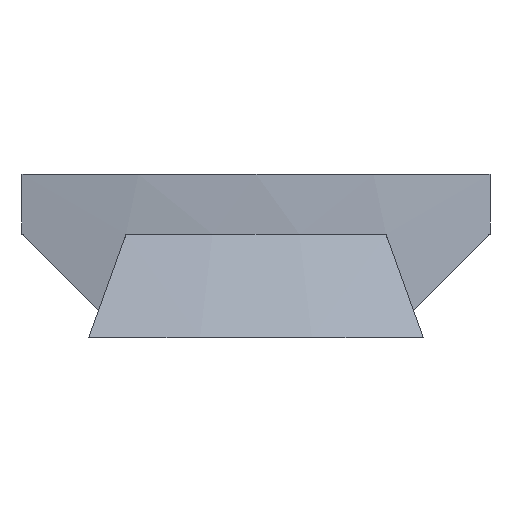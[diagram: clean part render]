
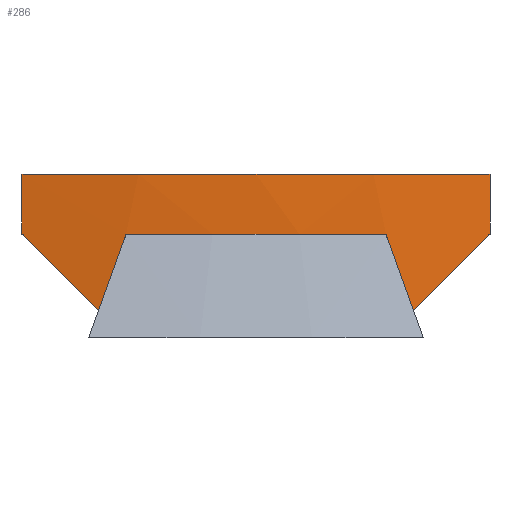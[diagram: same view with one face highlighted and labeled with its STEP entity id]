
A CAD part, front view. The second image highlights one B-rep face of the part: STEP entity #286.
In plain terms, the highlighted cylindrical face has radius 44.85 mm (diameter 89.7 mm), a partial arc.
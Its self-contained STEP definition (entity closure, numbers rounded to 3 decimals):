
#34 = VERTEX_POINT('',#35);
#35 = CARTESIAN_POINT('',(4.769,-15.151,0.01));
#42 = EDGE_CURVE('',#43,#34,#45,.T.);
#43 = VERTEX_POINT('',#44);
#44 = CARTESIAN_POINT('',(4.769,-15.151,3.8));
#45 = B_SPLINE_CURVE_WITH_KNOTS('',4,(#46,#47,#48,#49,#50),
  .UNSPECIFIED.,.F.,.F.,(5,5),(0.,1.),.PIECEWISE_BEZIER_KNOTS.);
#46 = CARTESIAN_POINT('',(4.769,-15.151,3.8));
#47 = CARTESIAN_POINT('',(4.769,-15.151,2.853));
#48 = CARTESIAN_POINT('',(4.769,-15.151,1.905));
#49 = CARTESIAN_POINT('',(4.769,-15.151,0.958));
#50 = CARTESIAN_POINT('',(4.769,-15.151,0.01));
#238 = EDGE_CURVE('',#34,#239,#241,.T.);
#239 = VERTEX_POINT('',#240);
#240 = CARTESIAN_POINT('',(8.575,-14.578,3.8));
#241 = B_SPLINE_CURVE_WITH_KNOTS('',4,(#242,#243,#244,#245,#246),
  .UNSPECIFIED.,.F.,.F.,(5,5),(0.,1.),.PIECEWISE_BEZIER_KNOTS.);
#242 = CARTESIAN_POINT('',(4.769,-15.151,
    0.01));
#243 = CARTESIAN_POINT('',(5.731,-15.048,0.956
    ));
#244 = CARTESIAN_POINT('',(6.687,-14.918,1.903
    ));
#245 = CARTESIAN_POINT('',(7.635,-14.761,2.851
    ));
#246 = CARTESIAN_POINT('',(8.575,-14.578,3.8));
#286 = ADVANCED_FACE('',(#287),#361,.T.);
#287 = FACE_BOUND('',#288,.F.);
#288 = EDGE_LOOP('',(#289,#300,#308,#317,#325,#332,#333,#334,#343,#353)
  );
#289 = ORIENTED_EDGE('',*,*,#290,.F.);
#290 = EDGE_CURVE('',#291,#293,#295,.T.);
#291 = VERTEX_POINT('',#292);
#292 = CARTESIAN_POINT('',(-8.585,-14.576,3.8));
#293 = VERTEX_POINT('',#294);
#294 = CARTESIAN_POINT('',(-8.575,-14.578,3.8));
#295 = CIRCLE('',#296,44.85);
#296 = AXIS2_PLACEMENT_3D('',#297,#298,#299);
#297 = CARTESIAN_POINT('',(0.,29.445,3.8));
#298 = DIRECTION('',(0.,0.,1.));
#299 = DIRECTION('',(1.,0.,0.));
#300 = ORIENTED_EDGE('',*,*,#301,.T.);
#301 = EDGE_CURVE('',#291,#302,#304,.T.);
#302 = VERTEX_POINT('',#303);
#303 = CARTESIAN_POINT('',(-8.585,-14.576,6.));
#304 = LINE('',#305,#306);
#305 = CARTESIAN_POINT('',(-8.585,-14.576,3.8));
#306 = VECTOR('',#307,1.);
#307 = DIRECTION('',(0.,0.,1.));
#308 = ORIENTED_EDGE('',*,*,#309,.T.);
#309 = EDGE_CURVE('',#302,#310,#312,.T.);
#310 = VERTEX_POINT('',#311);
#311 = CARTESIAN_POINT('',(8.585,-14.576,6.));
#312 = CIRCLE('',#313,44.85);
#313 = AXIS2_PLACEMENT_3D('',#314,#315,#316);
#314 = CARTESIAN_POINT('',(0.,29.445,6.));
#315 = DIRECTION('',(0.,0.,1.));
#316 = DIRECTION('',(1.,0.,0.));
#317 = ORIENTED_EDGE('',*,*,#318,.F.);
#318 = EDGE_CURVE('',#319,#310,#321,.T.);
#319 = VERTEX_POINT('',#320);
#320 = CARTESIAN_POINT('',(8.585,-14.576,3.8));
#321 = LINE('',#322,#323);
#322 = CARTESIAN_POINT('',(8.585,-14.576,3.8));
#323 = VECTOR('',#324,1.);
#324 = DIRECTION('',(0.,0.,1.));
#325 = ORIENTED_EDGE('',*,*,#326,.F.);
#326 = EDGE_CURVE('',#239,#319,#327,.T.);
#327 = CIRCLE('',#328,44.85);
#328 = AXIS2_PLACEMENT_3D('',#329,#330,#331);
#329 = CARTESIAN_POINT('',(0.,29.445,3.8));
#330 = DIRECTION('',(0.,0.,1.));
#331 = DIRECTION('',(1.,0.,0.));
#332 = ORIENTED_EDGE('',*,*,#238,.F.);
#333 = ORIENTED_EDGE('',*,*,#42,.F.);
#334 = ORIENTED_EDGE('',*,*,#335,.F.);
#335 = EDGE_CURVE('',#336,#43,#338,.T.);
#336 = VERTEX_POINT('',#337);
#337 = CARTESIAN_POINT('',(-4.769,-15.151,3.8));
#338 = CIRCLE('',#339,44.85);
#339 = AXIS2_PLACEMENT_3D('',#340,#341,#342);
#340 = CARTESIAN_POINT('',(0.,29.445,3.8));
#341 = DIRECTION('',(0.,0.,1.));
#342 = DIRECTION('',(1.,0.,0.));
#343 = ORIENTED_EDGE('',*,*,#344,.T.);
#344 = EDGE_CURVE('',#336,#345,#347,.T.);
#345 = VERTEX_POINT('',#346);
#346 = CARTESIAN_POINT('',(-4.769,-15.151,0.01));
#347 = B_SPLINE_CURVE_WITH_KNOTS('',4,(#348,#349,#350,#351,#352),
  .UNSPECIFIED.,.F.,.F.,(5,5),(0.,1.),.PIECEWISE_BEZIER_KNOTS.);
#348 = CARTESIAN_POINT('',(-4.769,-15.151,3.8));
#349 = CARTESIAN_POINT('',(-4.769,-15.151,2.853));
#350 = CARTESIAN_POINT('',(-4.769,-15.151,1.905));
#351 = CARTESIAN_POINT('',(-4.769,-15.151,0.958));
#352 = CARTESIAN_POINT('',(-4.769,-15.151,0.01));
#353 = ORIENTED_EDGE('',*,*,#354,.T.);
#354 = EDGE_CURVE('',#345,#293,#355,.T.);
#355 = B_SPLINE_CURVE_WITH_KNOTS('',4,(#356,#357,#358,#359,#360),
  .UNSPECIFIED.,.F.,.F.,(5,5),(0.,1.),.PIECEWISE_BEZIER_KNOTS.);
#356 = CARTESIAN_POINT('',(-4.769,-15.151,0.01));
#357 = CARTESIAN_POINT('',(-5.731,-15.048,0.956
    ));
#358 = CARTESIAN_POINT('',(-6.687,-14.918,
    1.903));
#359 = CARTESIAN_POINT('',(-7.635,-14.761,
    2.851));
#360 = CARTESIAN_POINT('',(-8.575,-14.578,3.8));
#361 = CYLINDRICAL_SURFACE('',#362,44.85);
#362 = AXIS2_PLACEMENT_3D('',#363,#364,#365);
#363 = CARTESIAN_POINT('',(0.,29.445,3.8));
#364 = DIRECTION('',(-0.,-0.,-1.));
#365 = DIRECTION('',(1.,0.,0.));
